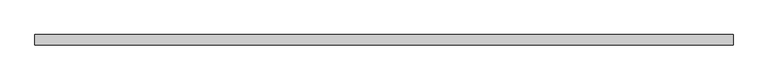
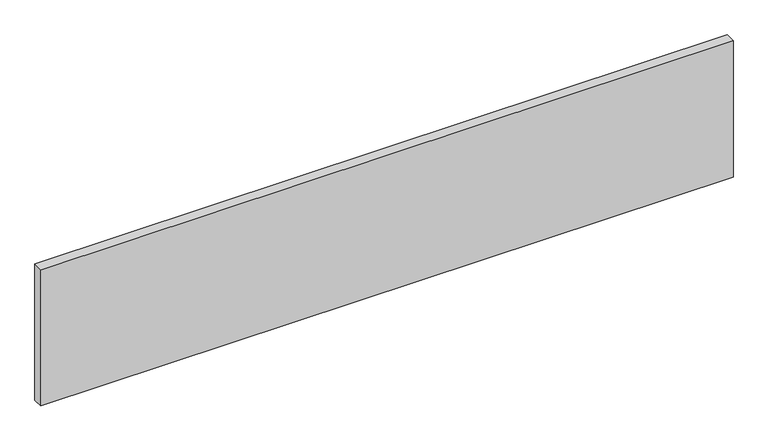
"""IFC4 building model written with IfcOpenShell, lengths in millimetres: plate geometry, 系统嵌板 : 玻璃."""

from ifc_helpers import new_model, si_unit, origin, origin_with_axes, place, context, project, spatial, polyline, outline, extrude, source, transform, mapped, element, save


def plate_0147c95a(model_context):
    return source(origin(), model_context, "Body", "SweptSolid", [
        extrude(outline(polyline([(840.0, -12.5), (-840.0, -12.5), (-840.0, 12.5), (840.0, 12.5), (840.0, -12.5)])), origin_with_axes(), (0.0, 0.0, 1.0), 350.0),
    ])


if __name__ == "__main__":
    model = new_model("IFC4")
    model_context = context("Model", 3, world=origin())
    ifc_project = project(units=[si_unit("LENGTHUNIT", "METRE", prefix="MILLI")], contexts=[model_context])
    site = spatial("IfcSite", under=ifc_project)
    building = spatial("IfcBuilding", under=site)
    placement = place(None, origin())
    plate_shape = plate_0147c95a(model_context)
    element("IfcPlate", 1, ObjectType="系统嵌板 : 玻璃", at=placement, inside=building, context=model_context, shape_type="MappedRepresentation", body=[
        mapped(plate_shape, transform((0.0, 0.0, 0.0), x_axis=(1.0, 0.0, 0.0), y_axis=(0.0, 1.0, 0.0), z_axis=(0.0, 0.0, 1.0))),
    ])
    save(model, "model.ifc")
